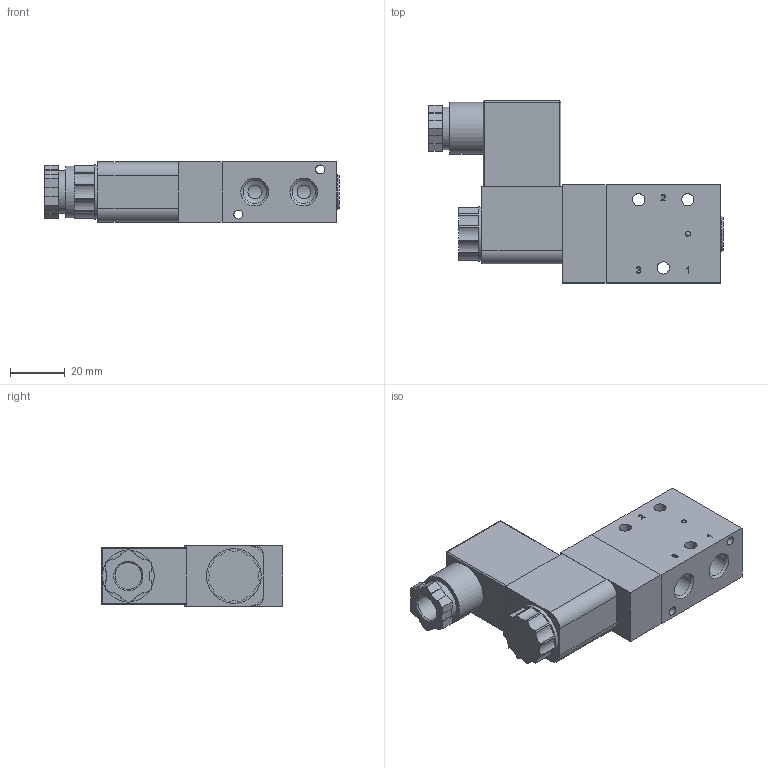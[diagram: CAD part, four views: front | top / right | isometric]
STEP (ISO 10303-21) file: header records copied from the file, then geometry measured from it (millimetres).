
FILE_DESCRIPTION(/* description */ ('Unknown','CAx-IF Rec.Pracs.---Representation and Presentation of Product Manufacturing Information (PMI)---4.0---2014-10-13','CAx-IF Rec.Pracs.---3D Tessellated Geometry---0.4---2014-09-14','2;1'),/* implementation_level */ '2;1');
FILE_NAME(/* name */ 'MH 310 501 G + MA 22 24V DC + ST 22 M',/* time_stamp */ '2019-06-19T15:14:12+02:00',/* author */ ('Unknown'),/* organization */ ('Unknown'),/* preprocessor_version */ 'ST-DEVELOPER v16.7',/* originating_system */ 'DEX',/* authorisation */ $);
FILE_SCHEMA (('AP242_MANAGED_MODEL_BASED_3D_ENGINEERING_MIM_LF { 1 0 10303 442 20130219 1 4 }'));
Length unit declared in the file: millimetre
Products named in the file (2): MH 310 501 G + MA 22 24V DC + ST 22 M
Assembly tree (1 placements, depth 2):
  MH 310 501 G + MA 22 24V DC + ST 22 M
    MH 310 501 G + MA 22 24V DC + ST 22 M
Bounding box: 108 x 66.7 x 22 mm (x, y, z)
Volume: 80703.8 mm3; surface area: 28293.4 mm2
Topology: 6 solids, 6 shells, 398 faces, 1021 edges, 673 vertices
Faces by surface type: plane 239, cylinder 88, bspline 43, cone 21, sphere 5, torus 2
Full cylindrical faces by diameter (mm): 1.5 x3, 1.6 x1, 1.85 x1, 2.459 x10, 3.236 x1, 3.3 x2, 4.5 x3, 5 x3, 5.6 x4, 6 x1, 6.1 x1, 7.3 x1, 8 x1, 8.15 x1, 8.5 x1, 8.566 x6, 9 x2, 9.15 x1, 9.75 x1, 11 x1, 11.6 x1, 12 x1, 12.06 x1, 13 x1, 15.6 x1, 16 x1, 19 x1, 20 x1
Entity records: 14803 total; most frequent: CARTESIAN_POINT 3095, ORIENTED_EDGE 1776, DIRECTION 1697, EDGE_CURVE 888, VERTEX_POINT 630, LINE 589, VECTOR 589, FACE_BOUND 560
